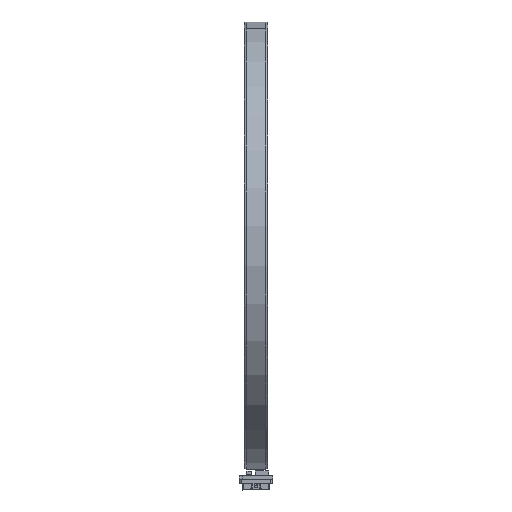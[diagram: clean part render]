
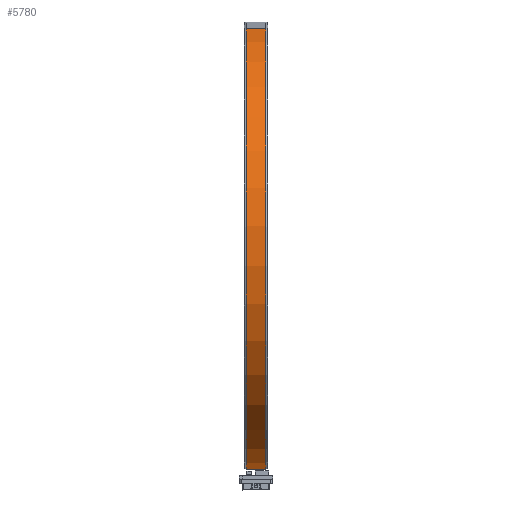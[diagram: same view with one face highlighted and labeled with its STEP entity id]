
A CAD part, left-side view. The second image highlights one B-rep face of the part: STEP entity #5780.
In plain terms, the highlighted cylindrical face has radius 114.48 mm (diameter 228.96 mm), a partial arc.
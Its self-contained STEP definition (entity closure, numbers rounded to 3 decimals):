
#2439 = DIRECTION ( 'NONE',  ( 0., -1., 0. ) ) ;
#2720 = EDGE_CURVE ( 'NONE', #35167, #69096, #58458, .T. ) ;
#3058 = CARTESIAN_POINT ( 'NONE',  ( -29.83, 1., 110.525 ) ) ;
#5780 = ADVANCED_FACE ( 'NONE', ( #6424 ), #75669, .T. ) ;
#6424 = FACE_OUTER_BOUND ( 'NONE', #23525, .T. ) ;
#6781 = DIRECTION ( 'NONE',  ( -0.261, 0., 0.965 ) ) ;
#7943 = CARTESIAN_POINT ( 'NONE',  ( -29.83, 0., 110.525 ) ) ;
#8335 = LINE ( 'NONE', #7943, #77660 ) ;
#8701 = CARTESIAN_POINT ( 'NONE',  ( 0., 1., 0. ) ) ;
#8719 = CARTESIAN_POINT ( 'NONE',  ( 29.83, 11., -110.525 ) ) ;
#13505 = AXIS2_PLACEMENT_3D ( 'NONE', #48790, #54309, #6781 ) ;
#21141 = VERTEX_POINT ( 'NONE', #3058 ) ;
#23525 = EDGE_LOOP ( 'NONE', ( #51216, #54150, #69406, #58223 ) ) ;
#26396 = EDGE_CURVE ( 'NONE', #49106, #35167, #52352, .T. ) ;
#28598 = DIRECTION ( 'NONE',  ( 0., -1., 0. ) ) ;
#28816 = EDGE_CURVE ( 'NONE', #49106, #21141, #8335, .T. ) ;
#30999 = CARTESIAN_POINT ( 'NONE',  ( -29.83, 11., 110.525 ) ) ;
#32350 = CARTESIAN_POINT ( 'NONE',  ( 0., 0., 0. ) ) ;
#35167 = VERTEX_POINT ( 'NONE', #8719 ) ;
#38134 = VECTOR ( 'NONE', #28598, 1000. ) ;
#39474 = AXIS2_PLACEMENT_3D ( 'NONE', #32350, #2439, #62168 ) ;
#45253 = DIRECTION ( 'NONE',  ( -0.261, 0., 0.965 ) ) ;
#48790 = CARTESIAN_POINT ( 'NONE',  ( 0., 11., 0. ) ) ;
#49106 = VERTEX_POINT ( 'NONE', #30999 ) ;
#49704 = AXIS2_PLACEMENT_3D ( 'NONE', #8701, #51106, #45253 ) ;
#51106 = DIRECTION ( 'NONE',  ( 0., -1., 0. ) ) ;
#51216 = ORIENTED_EDGE ( 'NONE', *, *, #26396, .T. ) ;
#52352 = CIRCLE ( 'NONE', #13505, 114.48 ) ;
#54150 = ORIENTED_EDGE ( 'NONE', *, *, #2720, .T. ) ;
#54309 = DIRECTION ( 'NONE',  ( 0., -1., 0. ) ) ;
#56276 = DIRECTION ( 'NONE',  ( 0., -1., 0. ) ) ;
#58223 = ORIENTED_EDGE ( 'NONE', *, *, #28816, .F. ) ;
#58458 = LINE ( 'NONE', #77293, #38134 ) ;
#61528 = CARTESIAN_POINT ( 'NONE',  ( 29.83, 1., -110.525 ) ) ;
#62168 = DIRECTION ( 'NONE',  ( -0.261, 0., 0.965 ) ) ;
#69096 = VERTEX_POINT ( 'NONE', #61528 ) ;
#69406 = ORIENTED_EDGE ( 'NONE', *, *, #76750, .F. ) ;
#75669 = CYLINDRICAL_SURFACE ( 'NONE', #39474, 114.48 ) ;
#76750 = EDGE_CURVE ( 'NONE', #21141, #69096, #77324, .T. ) ;
#77293 = CARTESIAN_POINT ( 'NONE',  ( 29.83, 0., -110.525 ) ) ;
#77324 = CIRCLE ( 'NONE', #49704, 114.48 ) ;
#77660 = VECTOR ( 'NONE', #56276, 1000. ) ;
